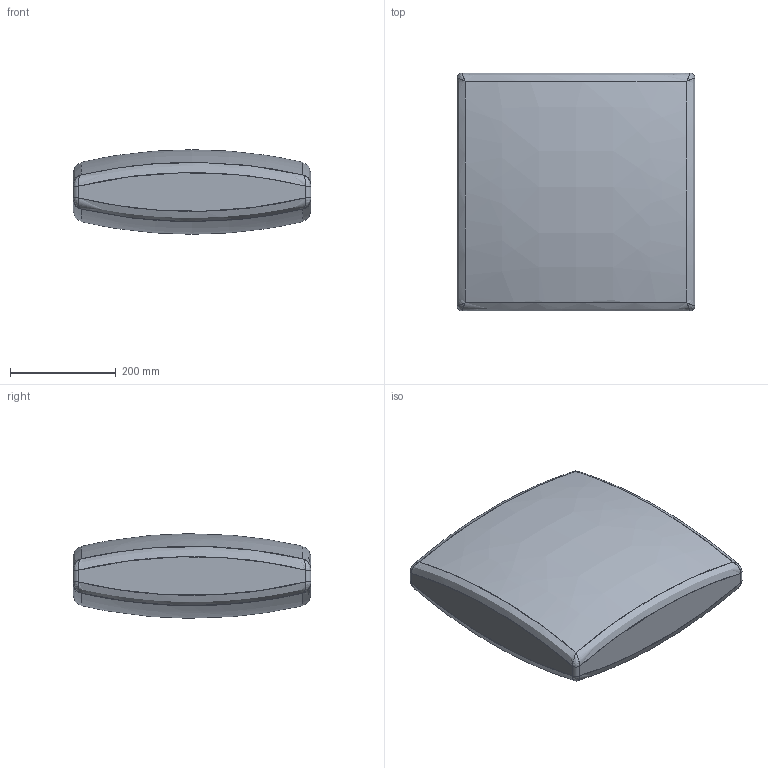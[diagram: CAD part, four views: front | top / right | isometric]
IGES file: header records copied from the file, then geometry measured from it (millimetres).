
Start section: SolidWorks IGES file using analytic representation for surfaces
Global section: file name: C:\Users\furioso\Desktop\ACC99001-00-00.IGS; native system: SolidWorks 2020; preprocessor: SolidWorks 2020; author: Furioso; date: 240916.093805; units: millimetre
Bounding box: 450 x 450 x 159.91 mm (x, y, z)
Surface area: 550357.8 mm2 (no closed solid volume)
Topology: 0 solids, 0 shells, 34 faces, 442 edges, 440 vertices
Faces by surface type: bspline 30, revolution 4
